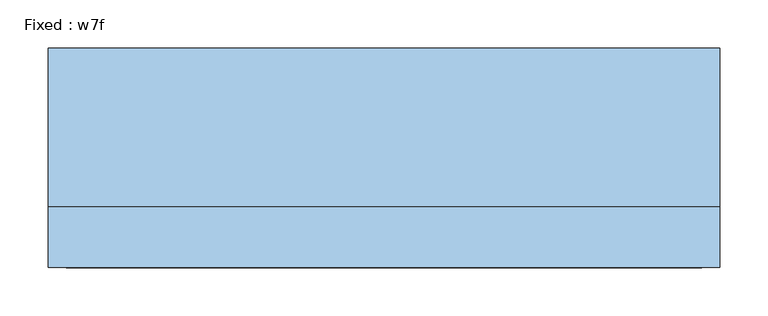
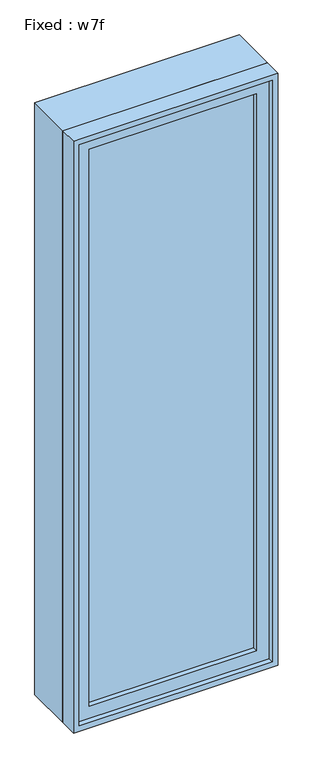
"""IFC4 building model written with IfcOpenShell, lengths in millimetres: window geometry, Fixed : w7f."""

from ifc_helpers import new_model, si_unit, frame, origin, place, context, project, spatial, polyline, outline, extrude, source, transform, mapped, element, save


def fixed_w7f_4eee2fee(model_context):
    return source(origin(), model_context, "Body", "SweptSolid", [
        extrude(outline(polyline([(247.65, -66.675), (247.65, -79.375), (-323.85, -79.375), (-323.85, -66.675), (247.65, -66.675)])), frame((0.0, 0.0, 977.9), z_axis=(0.0, 0.0, 1.0), x_axis=(1.0, 0.0, 0.0)), (0.0, 0.0, 1.0), 2006.6),
        extrude(outline(polyline([(3028.95, -368.3), (933.45, -368.3), (933.45, 292.1), (3028.95, 292.1), (3028.95, -368.3)]), holes=[polyline([(2984.5, -323.85), (2984.5, 247.65), (977.9, 247.65), (977.9, -323.85), (2984.5, -323.85)])]), frame((0.0, -95.25, 0.0), z_axis=(0.0, 1.0, 0.0), x_axis=(0.0, 0.0, 1.0)), (0.0, 0.0, 1.0), 44.45),
        extrude(outline(polyline([(3048.0, -387.35), (914.4, -387.35), (914.4, 311.15), (3048.0, 311.15), (3048.0, -387.35)]), holes=[polyline([(3016.25, -355.6), (3016.25, 279.4), (946.15, 279.4), (946.15, -355.6), (3016.25, -355.6)])]), frame((0.0, -50.8, 0.0), z_axis=(0.0, 1.0, 0.0), x_axis=(0.0, 0.0, 1.0)), (0.0, 0.0, 1.0), 165.1),
        extrude(outline(polyline([(3048.0, 311.15), (3048.0, -387.35), (914.4, -387.35), (914.4, 311.15), (3048.0, 311.15)]), holes=[polyline([(3028.95, 292.1), (933.45, 292.1), (933.45, -368.3), (3028.95, -368.3), (3028.95, 292.1)])]), frame((0.0, -114.3, 0.0), z_axis=(0.0, 1.0, 0.0), x_axis=(0.0, 0.0, 1.0)), (0.0, 0.0, 1.0), 63.5),
    ])


if __name__ == "__main__":
    model = new_model("IFC4")
    model_context = context("Model", 3, world=origin())
    ifc_project = project(units=[si_unit("LENGTHUNIT", "METRE", prefix="MILLI")], contexts=[model_context])
    site = spatial("IfcSite", under=ifc_project)
    building = spatial("IfcBuilding", under=site)
    placement = place(None, origin())
    fixed_w7f_shape = fixed_w7f_4eee2fee(model_context)
    element("IfcWindow", 1, ObjectType="Fixed : w7f", at=placement, inside=building, context=model_context, shape_type="MappedRepresentation", body=[
        mapped(fixed_w7f_shape, transform((0.0, 0.0, 0.0), x_axis=(1.0, 0.0, 0.0), y_axis=(0.0, 1.0, 0.0), z_axis=(0.0, 0.0, 1.0))),
    ])
    save(model, "model.ifc")
